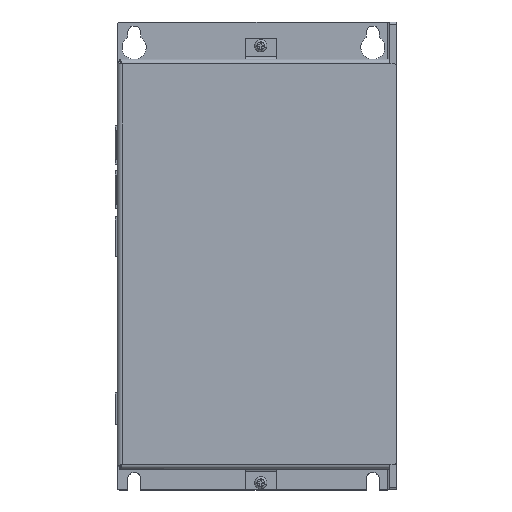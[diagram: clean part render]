
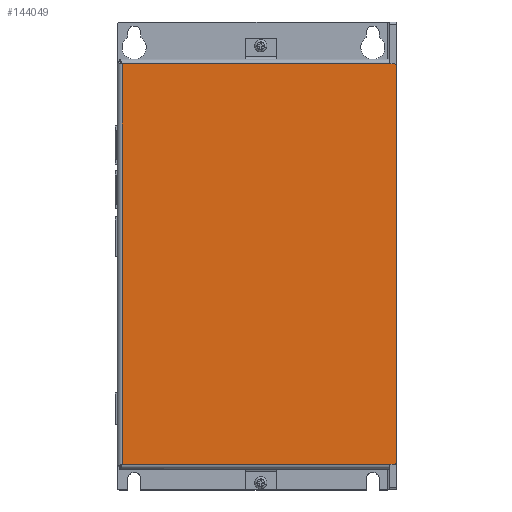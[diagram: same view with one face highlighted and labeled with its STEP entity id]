
A CAD part, top view. The second image highlights one B-rep face of the part: STEP entity #144049.
In plain terms, the highlighted planar face has unit normal (0, 0, 1) as drawn and (0, 1, 0) by its records, which use the part's own axes.
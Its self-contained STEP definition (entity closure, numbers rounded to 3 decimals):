
#141485=CARTESIAN_POINT('',(-82.,1.,-57.));
#141486=DIRECTION('',(0.,1.,0.));
#141487=DIRECTION('',(0.,0.,-1.));
#141488=AXIS2_PLACEMENT_3D('',#141485,#141486,#141487);
#141493=DIRECTION('',(-1.,0.,0.));
#141494=VECTOR('',#141493,164.);
#141495=CARTESIAN_POINT('',(82.,1.,-58.));
#141496=LINE('',#141495,#141494);
#141500=CARTESIAN_POINT('',(82.,1.,-57.));
#141501=DIRECTION('',(0.,1.,0.));
#141502=DIRECTION('',(1.,0.,0.));
#141503=AXIS2_PLACEMENT_3D('',#141500,#141501,#141502);
#141508=DIRECTION('',(0.,0.,1.));
#141509=VECTOR('',#141508,2.);
#141510=CARTESIAN_POINT('',(83.,1.,-57.));
#141511=LINE('',#141510,#141509);
#141515=DIRECTION('',(0.,0.,1.));
#141516=VECTOR('',#141515,2.);
#141517=CARTESIAN_POINT('',(-83.,1.,-57.));
#141518=LINE('',#141517,#141516);
#141549=DIRECTION('',(0.,0.,-1.));
#141550=VECTOR('',#141549,111.);
#141551=CARTESIAN_POINT('',(83.,1.,56.));
#141552=LINE('',#141551,#141550);
#142075=DIRECTION('',(-1.,0.,0.));
#142076=VECTOR('',#142075,166.);
#142077=CARTESIAN_POINT('',(83.,1.,56.));
#142078=LINE('',#142077,#142076);
#142703=DIRECTION('',(0.,0.,1.));
#142704=VECTOR('',#142703,111.);
#142705=CARTESIAN_POINT('',(-83.,1.,-55.));
#142706=LINE('',#142705,#142704);
#143313=CARTESIAN_POINT('',(83.,1.,56.));
#143314=CARTESIAN_POINT('',(-83.,1.,56.));
#143315=VERTEX_POINT('',#143313);
#143316=VERTEX_POINT('',#143314);
#143503=CARTESIAN_POINT('',(-83.,1.,-55.));
#143504=VERTEX_POINT('',#143503);
#143506=CARTESIAN_POINT('',(83.,1.,-55.));
#143508=VERTEX_POINT('',#143506);
#143601=CARTESIAN_POINT('',(-82.,1.,-58.));
#143602=VERTEX_POINT('',#143601);
#143603=CARTESIAN_POINT('',(-83.,1.,-57.));
#143604=VERTEX_POINT('',#143603);
#143609=CARTESIAN_POINT('',(83.,1.,-57.));
#143610=VERTEX_POINT('',#143609);
#143611=CARTESIAN_POINT('',(82.,1.,-58.));
#143612=VERTEX_POINT('',#143611);
#144031=CARTESIAN_POINT('',(0.,1.,0.));
#144032=DIRECTION('',(0.,1.,0.));
#144033=DIRECTION('',(1.,0.,0.));
#144034=AXIS2_PLACEMENT_3D('',#144031,#144032,#144033);
#144035=PLANE('',#144034);
#144036=ORIENTED_EDGE('',*,*,#143693,.F.);
#144037=ORIENTED_EDGE('',*,*,#143709,.F.);
#144038=ORIENTED_EDGE('',*,*,#143722,.F.);
#144039=ORIENTED_EDGE('',*,*,#143737,.T.);
#144041=ORIENTED_EDGE('',*,*,#144040,.F.);
#144043=ORIENTED_EDGE('',*,*,#144042,.T.);
#144045=ORIENTED_EDGE('',*,*,#144044,.F.);
#144046=ORIENTED_EDGE('',*,*,#144024,.F.);
#144047=EDGE_LOOP('',(#144036,#144037,#144038,#144039,#144041,#144043,#144045,
#144046));
#144048=FACE_OUTER_BOUND('',#144047,.F.);
#141489=CIRCLE('',#141488,1.);
#141504=CIRCLE('',#141503,1.);
#143693=EDGE_CURVE('',#143602,#143604,#141489,.T.);
#143709=EDGE_CURVE('',#143612,#143602,#141496,.T.);
#143722=EDGE_CURVE('',#143610,#143612,#141504,.T.);
#143737=EDGE_CURVE('',#143610,#143508,#141511,.T.);
#144024=EDGE_CURVE('',#143604,#143504,#141518,.T.);
#144040=EDGE_CURVE('',#143315,#143508,#141552,.T.);
#144042=EDGE_CURVE('',#143315,#143316,#142078,.T.);
#144044=EDGE_CURVE('',#143504,#143316,#142706,.T.);
#144049=ADVANCED_FACE('',(#144048),#144035,.T.);
